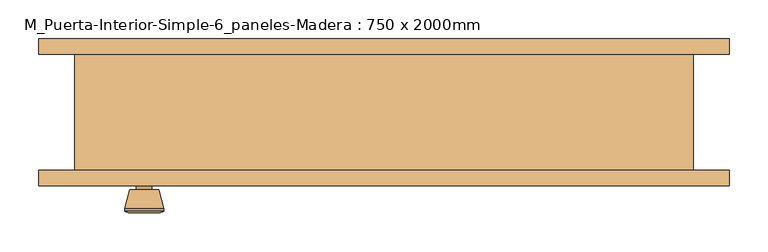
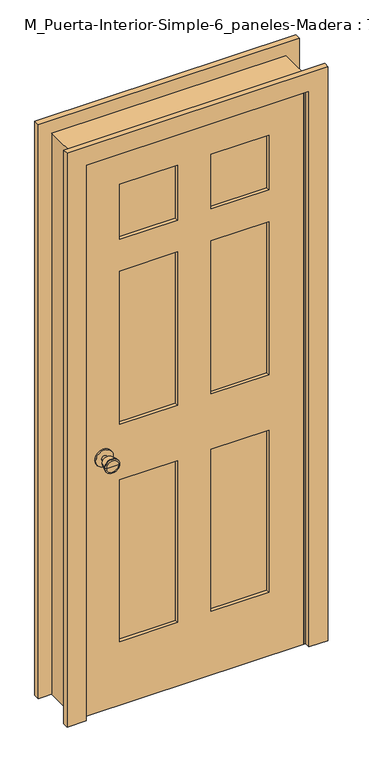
"""IFC4 building model written with IfcOpenShell, lengths in millimetres: door geometry, M_Puerta-Interior-Simple-6_paneles-Madera : 750 x 2000mm."""

from ifc_helpers import new_model, si_unit, point, frame, frame_2d, origin, place, context, project, spatial, polyline, circle_curve, trimmed, segment, composite_curve, outline, extrude, faceted_brep, source, transform, mapped, element, save
from ifc_brep_helpers import plane_surface, cylinder_surface, revolved_surface, advanced_brep


def m_puerta_interior_simple_6_paneles_madera_750_x_2000mm_028ab884(model_context):
    return source(origin(), model_context, "Body", "SolidModel", [
        advanced_brep(
        [(-310.0, -30.825, 914.4), (-320.0, -30.825, 914.4), (-300.0, -30.825, 914.4), (-289.5241324, 18.175, 914.4), (-330.4758676, 18.175, 914.4), (-310.0, 18.175, 914.4), (-285.0, 16.3471319, 914.4), (-335.0, 16.3471319, 914.4), (-285.0, 12.8834537, 914.4), (-335.0, 12.8834537, 914.4), (-291.363764, -11.825, 914.4), (-328.636236, -11.825, 914.4), (-300.0, -11.825, 914.4), (-320.0, -11.825, 914.4)],
        [
            (0, 1),
            (1, 2, circle_curve(frame((-310.0, -30.825, 914.4), z_axis=(0.0, -1.0, 0.0), x_axis=(-1.0, 0.0, 0.0)), 10.0)),
            (2, 0),
            (2, 1, circle_curve(frame((-310.0, -30.825, 914.4), z_axis=(0.0, -1.0, 0.0), x_axis=(-1.0, 0.0, 0.0)), 10.0)),
            (3, 4, circle_curve(frame((-310.0, 18.175, 914.4), z_axis=(0.0, 1.0, 0.0), x_axis=(-1.0, 0.0, 0.0)), 20.4758676)),
            (4, 5),
            (5, 3),
            (4, 3, circle_curve(frame((-310.0, 18.175, 914.4), z_axis=(0.0, 1.0, 0.0), x_axis=(-1.0, 0.0, 0.0)), 20.4758676)),
            (6, 7, circle_curve(frame((-310.0, 16.3471319, 914.4), z_axis=(0.0, 1.0, 0.0), x_axis=(-1.0, 0.0, 0.0)), 25.0)),
            (7, 4),
            (3, 6),
            (7, 6, circle_curve(frame((-310.0, 16.3471319, 914.4), z_axis=(0.0, 1.0, 0.0), x_axis=(-1.0, 0.0, 0.0)), 25.0)),
            (8, 9, circle_curve(frame((-310.0, 12.8834537, 914.4), z_axis=(0.0, 1.0, 0.0), x_axis=(-1.0, 0.0, 0.0)), 25.0)),
            (9, 7),
            (6, 8),
            (9, 8, circle_curve(frame((-310.0, 12.8834537, 914.4), z_axis=(0.0, 1.0, 0.0), x_axis=(-1.0, 0.0, 0.0)), 25.0)),
            (10, 11, circle_curve(frame((-310.0, -11.825, 914.4), z_axis=(0.0, 1.0, 0.0), x_axis=(-1.0, 0.0, 0.0)), 18.636236)),
            (11, 9),
            (8, 10),
            (11, 10, circle_curve(frame((-310.0, -11.825, 914.4), z_axis=(0.0, 1.0, 0.0), x_axis=(-1.0, 0.0, 0.0)), 18.636236)),
            (12, 13, circle_curve(frame((-310.0, -11.825, 914.4), z_axis=(0.0, 1.0, 0.0), x_axis=(-1.0, 0.0, 0.0)), 10.0)),
            (13, 11),
            (10, 12),
            (13, 12, circle_curve(frame((-310.0, -11.825, 914.4), z_axis=(0.0, 1.0, 0.0), x_axis=(-1.0, 0.0, 0.0)), 10.0)),
            (1, 13),
            (12, 2),
        ],
        [
            plane_surface(frame((-310.0, -30.825, 914.4), z_axis=(0.0, -1.0, 0.0), x_axis=(-1.0, 0.0, 0.0))),
            plane_surface(frame((-310.0, 18.175, 914.4), z_axis=(0.0, 1.0, 0.0), x_axis=(-1.0, 0.0, 0.0))),
            revolved_surface(polyline([(-330.4758676, 18.175, 914.4), (-335.0, 16.3471319, 914.4)]), (-310.0, -30.825, 914.4), (0.0, -1.0, 0.0)),
            cylinder_surface(frame((-310.0, -30.825, 914.4), z_axis=(0.0, -1.0, 0.0), x_axis=(-1.0, 0.0, 0.0)), 25.0),
            revolved_surface(polyline([(-335.0, 12.8834537, 914.4), (-328.636236, -11.825, 914.4)]), (-310.0, -30.825, 914.4), (0.0, -1.0, 0.0)),
            plane_surface(frame((-310.0, -11.825, 914.4), z_axis=(0.0, -1.0, 0.0), x_axis=(-1.0, 0.0, 0.0))),
            cylinder_surface(frame((-310.0, -30.825, 914.4), z_axis=(0.0, -1.0, 0.0), x_axis=(-1.0, 0.0, 0.0)), 10.0),
        ],
        [
            (0, [[1, 2, 3]]),
            (0, [[-3, 4, -1]]),
            (1, [[5, 6, 7]]),
            (1, [[8, -7, -6]]),
            (2, [[9, 10, -5, 11]]),
            (2, [[12, -11, -8, -10]]),
            (3, [[13, 14, -9, 15]]),
            (3, [[16, -15, -12, -14]]),
            (4, [[17, 18, -13, 19]]),
            (4, [[20, -19, -16, -18]]),
            (5, [[21, 22, -17, 23]]),
            (5, [[24, -23, -20, -22]]),
            (6, [[-2, 25, -21, 26]]),
            (6, [[-4, -26, -24, -25]]),
        ],
    ),
        extrude(outline(composite_curve([segment(trimmed(circle_curve(frame_2d((914.4, -310.0)), 30.0), [point((914.4, -340.0))], [point((914.4, -280.0))], False, "CARTESIAN"), True, "CONTINUOUS"), segment(trimmed(circle_curve(frame_2d((914.4, -310.0)), 30.0), [point((914.4, -280.0))], [point((914.4, -340.0))], False, "CARTESIAN"), True, "CONTINUOUS")], self_intersect=False)), frame((0.0, -36.825, 0.0), z_axis=(0.0, 1.0, 0.0), x_axis=(0.0, 0.0, 1.0)), (0.0, 0.0, 1.0), 6.0),
        advanced_brep(
        [(-310.0, -77.825, 914.4), (-300.0, -77.825, 914.4), (-320.0, -77.825, 914.4), (-289.5241324, -126.825, 914.4), (-310.0, -126.825, 914.4), (-330.4758676, -126.825, 914.4), (-285.0, -124.9971319, 914.4), (-335.0, -124.9971319, 914.4), (-285.0, -121.5334537, 914.4), (-335.0, -121.5334537, 914.4), (-291.363764, -96.825, 914.4), (-328.636236, -96.825, 914.4), (-300.0, -96.825, 914.4), (-320.0, -96.825, 914.4)],
        [
            (0, 1),
            (1, 2, circle_curve(frame((-310.0, -77.825, 914.4), z_axis=(0.0, 1.0, 0.0), x_axis=(-1.0, 0.0, 0.0)), 10.0)),
            (2, 0),
            (2, 1, circle_curve(frame((-310.0, -77.825, 914.4), z_axis=(0.0, 1.0, 0.0), x_axis=(-1.0, 0.0, 0.0)), 10.0)),
            (3, 4),
            (4, 5),
            (5, 3, circle_curve(frame((-310.0, -126.825, 914.4), z_axis=(0.0, -1.0, 0.0), x_axis=(-1.0, 0.0, 0.0)), 20.4758676)),
            (3, 5, circle_curve(frame((-310.0, -126.825, 914.4), z_axis=(0.0, -1.0, 0.0), x_axis=(-1.0, 0.0, 0.0)), 20.4758676)),
            (6, 3),
            (5, 7),
            (7, 6, circle_curve(frame((-310.0, -124.9971319, 914.4), z_axis=(0.0, -1.0, 0.0), x_axis=(-1.0, 0.0, 0.0)), 25.0)),
            (6, 7, circle_curve(frame((-310.0, -124.9971319, 914.4), z_axis=(0.0, -1.0, 0.0), x_axis=(-1.0, 0.0, 0.0)), 25.0)),
            (8, 6),
            (7, 9),
            (9, 8, circle_curve(frame((-310.0, -121.5334537, 914.4), z_axis=(0.0, -1.0, 0.0), x_axis=(-1.0, 0.0, 0.0)), 25.0)),
            (8, 9, circle_curve(frame((-310.0, -121.5334537, 914.4), z_axis=(0.0, -1.0, 0.0), x_axis=(-1.0, 0.0, 0.0)), 25.0)),
            (10, 8),
            (9, 11),
            (11, 10, circle_curve(frame((-310.0, -96.825, 914.4), z_axis=(0.0, -1.0, 0.0), x_axis=(-1.0, 0.0, 0.0)), 18.636236)),
            (10, 11, circle_curve(frame((-310.0, -96.825, 914.4), z_axis=(0.0, -1.0, 0.0), x_axis=(-1.0, 0.0, 0.0)), 18.636236)),
            (12, 10),
            (11, 13),
            (13, 12, circle_curve(frame((-310.0, -96.825, 914.4), z_axis=(0.0, -1.0, 0.0), x_axis=(-1.0, 0.0, 0.0)), 10.0)),
            (12, 13, circle_curve(frame((-310.0, -96.825, 914.4), z_axis=(0.0, -1.0, 0.0), x_axis=(-1.0, 0.0, 0.0)), 10.0)),
            (1, 12),
            (13, 2),
        ],
        [
            plane_surface(frame((-310.0, -77.825, 914.4), z_axis=(0.0, 1.0, 0.0), x_axis=(-1.0, 0.0, 0.0))),
            plane_surface(frame((-310.0, -126.825, 914.4), z_axis=(0.0, -1.0, 0.0), x_axis=(-1.0, 0.0, 0.0))),
            revolved_surface(polyline([(-330.4758676, -126.825, 914.4), (-335.0, -124.9971319, 914.4)]), (-310.0, -77.825, 914.4), (0.0, 1.0, 0.0)),
            cylinder_surface(frame((-310.0, -77.825, 914.4), z_axis=(0.0, 1.0, 0.0), x_axis=(-1.0, 0.0, 0.0)), 25.0),
            revolved_surface(polyline([(-335.0, -121.5334537, 914.4), (-328.636236, -96.825, 914.4)]), (-310.0, -77.825, 914.4), (0.0, 1.0, 0.0)),
            plane_surface(frame((-310.0, -96.825, 914.4), z_axis=(0.0, 1.0, 0.0), x_axis=(-1.0, 0.0, 0.0))),
            cylinder_surface(frame((-310.0, -77.825, 914.4), z_axis=(0.0, 1.0, 0.0), x_axis=(-1.0, 0.0, 0.0)), 10.0),
        ],
        [
            (0, [[1, 2, 3]]),
            (0, [[-3, 4, -1]]),
            (1, [[5, 6, 7]]),
            (1, [[-6, -5, 8]]),
            (2, [[9, -7, 10, 11]]),
            (2, [[-10, -8, -9, 12]]),
            (3, [[13, -11, 14, 15]]),
            (3, [[-14, -12, -13, 16]]),
            (4, [[17, -15, 18, 19]]),
            (4, [[-18, -16, -17, 20]]),
            (5, [[21, -19, 22, 23]]),
            (5, [[-22, -20, -21, 24]]),
            (6, [[25, -23, 26, -2]]),
            (6, [[-26, -24, -25, -4]]),
        ],
    ),
        extrude(outline(composite_curve([segment(trimmed(circle_curve(frame_2d((914.4, -310.0)), 30.0), [point((914.4, -340.0))], [point((914.4, -280.0))], False, "CARTESIAN"), True, "CONTINUOUS"), segment(trimmed(circle_curve(frame_2d((914.4, -310.0)), 30.0), [point((914.4, -280.0))], [point((914.4, -340.0))], False, "CARTESIAN"), True, "CONTINUOUS")], self_intersect=False)), frame((0.0, -77.825, 0.0), z_axis=(0.0, 1.0, 0.0), x_axis=(0.0, 0.0, 1.0)), (0.0, 0.0, 1.0), 6.0),
        faceted_brep([(400.0, -71.825, 0.0), (375.0, -71.825, 0.0), (375.0, -36.825, 0.0), (362.3, -36.825, 0.0), (362.3, -1.9, 0.0), (375.0, -1.9, 0.0), (375.0, 78.175, 0.0), (400.0, 78.175, 0.0), (400.0, 78.175, 2025.0), (400.0, -71.825, 2025.0), (375.0, 78.175, 2000.0), (-375.0, 78.175, 2000.0), (-375.0, 78.175, 0.0), (-400.0, 78.175, 0.0), (-400.0, 78.175, 2025.0), (375.0, -1.9, 2000.0), (362.3, -1.9, 1987.3), (-362.3, -1.9, 1987.3), (-362.3, -1.9, 0.0), (-375.0, -1.9, 0.0), (-375.0, -1.9, 2000.0), (362.3, -36.825, 1987.3), (375.0, -36.825, 2000.0), (-375.0, -36.825, 2000.0), (-375.0, -36.825, 0.0), (-362.3, -36.825, 0.0), (-362.3, -36.825, 1987.3), (375.0, -71.825, 2000.0), (-400.0, -71.825, 2025.0), (-400.0, -71.825, 0.0), (-375.0, -71.825, 0.0), (-375.0, -71.825, 2000.0)], [[[0, 1, 2, 3, 4, 5, 6, 7]], [[7, 8, 9, 0]], [[6, 10, 11, 12, 13, 14, 8, 7]], [[5, 15, 10, 6]], [[4, 16, 17, 18, 19, 20, 15, 5]], [[3, 21, 16, 4]], [[2, 22, 23, 24, 25, 26, 21, 3]], [[1, 27, 22, 2]], [[0, 9, 28, 29, 30, 31, 27, 1]], [[8, 14, 28, 9]], [[15, 20, 11, 10]], [[21, 26, 17, 16]], [[27, 31, 23, 22]], [[29, 13, 12, 19, 18, 25, 24, 30]], [[14, 13, 29, 28]], [[20, 19, 12, 11]], [[26, 25, 18, 17]], [[31, 30, 24, 23]]]),
        extrude(outline(polyline([(2000.0, -375.0), (0.0, -375.0), (0.0, 375.0), (2000.0, 375.0), (2000.0, -375.0)]), holes=[polyline([(1880.0, 57.5), (1880.0, 255.0), (1682.5, 255.0), (1682.5, 57.5), (1880.0, 57.5)]), polyline([(1567.5, 255.0), (1014.4, 255.0), (1014.4, 57.5), (1567.5, 57.5), (1567.5, 255.0)]), polyline([(1014.4, -57.5), (1014.4, -255.0), (1567.5, -255.0), (1567.5, -57.5), (1014.4, -57.5)]), polyline([(1682.5, -255.0), (1880.0, -255.0), (1880.0, -57.5), (1682.5, -57.5), (1682.5, -255.0)]), polyline([(814.4, 57.5), (814.4, 255.0), (230.0, 255.0), (230.0, 57.5), (814.4, 57.5)]), polyline([(230.0, -57.5), (230.0, -255.0), (814.4, -255.0), (814.4, -57.5), (230.0, -57.5)])]), frame((0.0, -71.825, 0.0), z_axis=(0.0, 1.0, 0.0), x_axis=(0.0, 0.0, 1.0)), (0.0, 0.0, 1.0), 35.0),
        extrude(outline(polyline([(255.0, -48.4916667), (255.0, -60.1583333), (57.5, -60.1583333), (57.5, -48.4916667), (255.0, -48.4916667)])), frame((0.0, 0.0, 1682.5), z_axis=(0.0, 0.0, 1.0), x_axis=(1.0, 0.0, 0.0)), (0.0, 0.0, 1.0), 197.5),
        extrude(outline(polyline([(255.0, -48.4916667), (255.0, -60.1583333), (57.5, -60.1583333), (57.5, -48.4916667), (255.0, -48.4916667)])), frame((0.0, 0.0, 1014.4), z_axis=(0.0, 0.0, 1.0), x_axis=(1.0, 0.0, 0.0)), (0.0, 0.0, 1.0), 553.1),
        extrude(outline(polyline([(-57.5, -48.4916667), (-57.5, -60.1583333), (-255.0, -60.1583333), (-255.0, -48.4916667), (-57.5, -48.4916667)])), frame((0.0, 0.0, 1014.4), z_axis=(0.0, 0.0, 1.0), x_axis=(1.0, 0.0, 0.0)), (0.0, 0.0, 1.0), 553.1),
        extrude(outline(polyline([(-57.5, -48.4916667), (-57.5, -60.1583333), (-255.0, -60.1583333), (-255.0, -48.4916667), (-57.5, -48.4916667)])), frame((0.0, 0.0, 1682.5), z_axis=(0.0, 0.0, 1.0), x_axis=(1.0, 0.0, 0.0)), (0.0, 0.0, 1.0), 197.5),
        extrude(outline(polyline([(255.0, -48.4916667), (255.0, -60.1583333), (57.5, -60.1583333), (57.5, -48.4916667), (255.0, -48.4916667)])), frame((0.0, 0.0, 230.0), z_axis=(0.0, 0.0, 1.0), x_axis=(1.0, 0.0, 0.0)), (0.0, 0.0, 1.0), 584.4),
        extrude(outline(polyline([(-57.5, -48.4916667), (-57.5, -60.1583333), (-255.0, -60.1583333), (-255.0, -48.4916667), (-57.5, -48.4916667)])), frame((0.0, 0.0, 230.0), z_axis=(0.0, 0.0, 1.0), x_axis=(1.0, 0.0, 0.0)), (0.0, 0.0, 1.0), 584.4),
        extrude(outline(polyline([(0.0, 446.35), (2071.35, 446.35), (2071.35, -446.35), (0.0, -446.35), (0.0, -381.35), (2006.35, -381.35), (2006.35, 381.35), (0.0, 381.35), (0.0, 446.35)])), frame((0.0, -91.825, 0.0), z_axis=(0.0, 1.0, 0.0), x_axis=(0.0, 0.0, 1.0)), (0.0, 0.0, 1.0), 20.0),
        extrude(outline(polyline([(0.0, 446.35), (2071.35, 446.35), (2071.35, -446.35), (0.0, -446.35), (0.0, -381.35), (2006.35, -381.35), (2006.35, 381.35), (0.0, 381.35), (0.0, 446.35)])), frame((0.0, 78.175, 0.0), z_axis=(0.0, 1.0, 0.0), x_axis=(0.0, 0.0, 1.0)), (0.0, 0.0, 1.0), 20.0),
    ])


if __name__ == "__main__":
    model = new_model("IFC4")
    model_context = context("Model", 3, world=origin())
    ifc_project = project(units=[si_unit("LENGTHUNIT", "METRE", prefix="MILLI")], contexts=[model_context])
    site = spatial("IfcSite", under=ifc_project)
    building = spatial("IfcBuilding", under=site)
    placement = place(None, origin())
    m_puerta_interior_simple_6_paneles_madera_750_x_2000mm_shape = m_puerta_interior_simple_6_paneles_madera_750_x_2000mm_028ab884(model_context)
    element("IfcDoor", 1, ObjectType="M_Puerta-Interior-Simple-6_paneles-Madera : 750 x 2000mm", at=placement, inside=building, context=model_context, shape_type="MappedRepresentation", body=[
        mapped(m_puerta_interior_simple_6_paneles_madera_750_x_2000mm_shape, transform((0.0, 0.0, 0.0), x_axis=(1.0, 0.0, 0.0), y_axis=(0.0, 1.0, 0.0), z_axis=(0.0, 0.0, 1.0))),
    ])
    save(model, "model.ifc")
